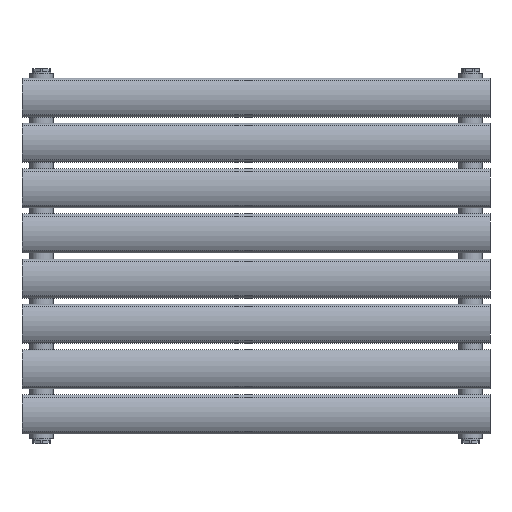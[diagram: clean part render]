
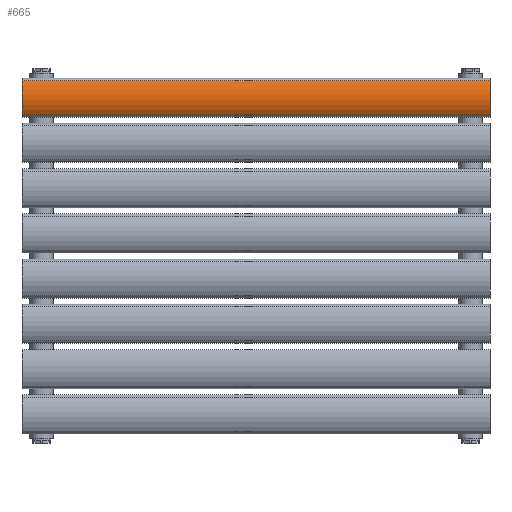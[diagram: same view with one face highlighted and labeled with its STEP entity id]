
A CAD part, top view. The second image highlights one B-rep face of the part: STEP entity #665.
In plain terms, the highlighted cylindrical face has radius 39.5 mm (diameter 79 mm), a partial arc.
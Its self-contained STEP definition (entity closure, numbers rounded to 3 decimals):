
#115=LINE('',#1252,#147);
#116=LINE('',#1256,#148);
#147=VECTOR('',#870,10.);
#148=VECTOR('',#873,10.);
#244=FACE_OUTER_BOUND('',#287,.T.);
#287=EDGE_LOOP('',(#508,#509,#510,#511));
#331=CIRCLE('',#751,39.5);
#332=CIRCLE('',#752,39.5);
#374=VERTEX_POINT('',#1250);
#375=VERTEX_POINT('',#1251);
#376=VERTEX_POINT('',#1253);
#377=VERTEX_POINT('',#1255);
#429=EDGE_CURVE('',#374,#375,#115,.T.);
#430=EDGE_CURVE('',#376,#374,#331,.T.);
#431=EDGE_CURVE('',#377,#376,#116,.T.);
#432=EDGE_CURVE('',#375,#377,#332,.T.);
#508=ORIENTED_EDGE('',*,*,#429,.F.);
#509=ORIENTED_EDGE('',*,*,#430,.F.);
#510=ORIENTED_EDGE('',*,*,#431,.F.);
#511=ORIENTED_EDGE('',*,*,#432,.F.);
#648=CYLINDRICAL_SURFACE('',#750,39.5);
#665=ADVANCED_FACE('',(#244),#648,.T.);
#750=AXIS2_PLACEMENT_3D('',#1249,#868,#869);
#751=AXIS2_PLACEMENT_3D('',#1254,#871,#872);
#752=AXIS2_PLACEMENT_3D('',#1257,#874,#875);
#868=DIRECTION('center_axis',(0.,0.,1.));
#869=DIRECTION('ref_axis',(-0.552,-0.834,0.));
#870=DIRECTION('',(0.,0.,-1.));
#871=DIRECTION('center_axis',(0.,0.,1.));
#872=DIRECTION('ref_axis',(-0.552,-0.834,0.));
#873=DIRECTION('',(0.,0.,1.));
#874=DIRECTION('center_axis',(0.,0.,-1.));
#875=DIRECTION('ref_axis',(-0.552,-0.834,0.));
#1249=CARTESIAN_POINT('Origin',(0.,14.5,0.));
#1250=CARTESIAN_POINT('',(21.816,-18.429,300.));
#1251=CARTESIAN_POINT('',(21.816,-18.429,-300.));
#1252=CARTESIAN_POINT('',(21.816,-18.429,0.));
#1253=CARTESIAN_POINT('',(-21.816,-18.429,300.));
#1254=CARTESIAN_POINT('Origin',(0.,14.5,300.));
#1255=CARTESIAN_POINT('',(-21.816,-18.429,-300.));
#1256=CARTESIAN_POINT('',(-21.816,-18.429,0.));
#1257=CARTESIAN_POINT('Origin',(0.,14.5,-300.));
